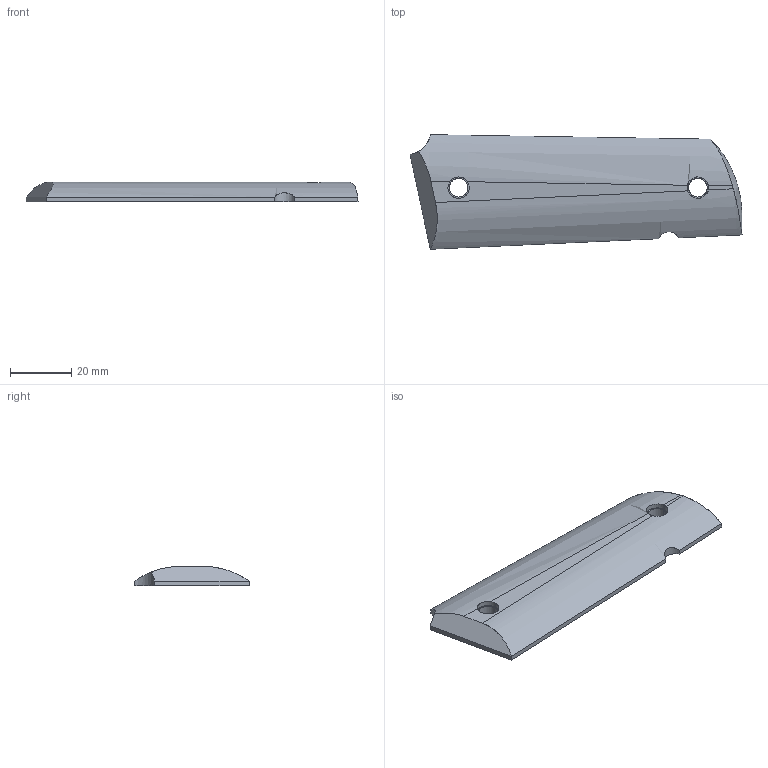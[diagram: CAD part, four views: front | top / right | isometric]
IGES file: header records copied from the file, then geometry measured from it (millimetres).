
Start section: SolidWorks IGES file using analytic representation for surfaces
Global section: file name: \\PSSILO\catalogs\CONTENTCENTRAL\1911_grips_blank_right\Cache\FC0F945D-0CCD-48AD-B431-DE41AE3B4EDC.IGS; native system: SolidWorks 2009; preprocessor: SolidWorks 2009; author: partstream; date: 090213.062243; units: inch
Bounding box: 108.39 x 37.39 x 6.35 mm (x, y, z)
Surface area: 7930.1 mm2 (no closed solid volume)
Topology: 0 solids, 0 shells, 30 faces, 633 edges, 633 vertices
Faces by surface type: revolution 17, bspline 13
